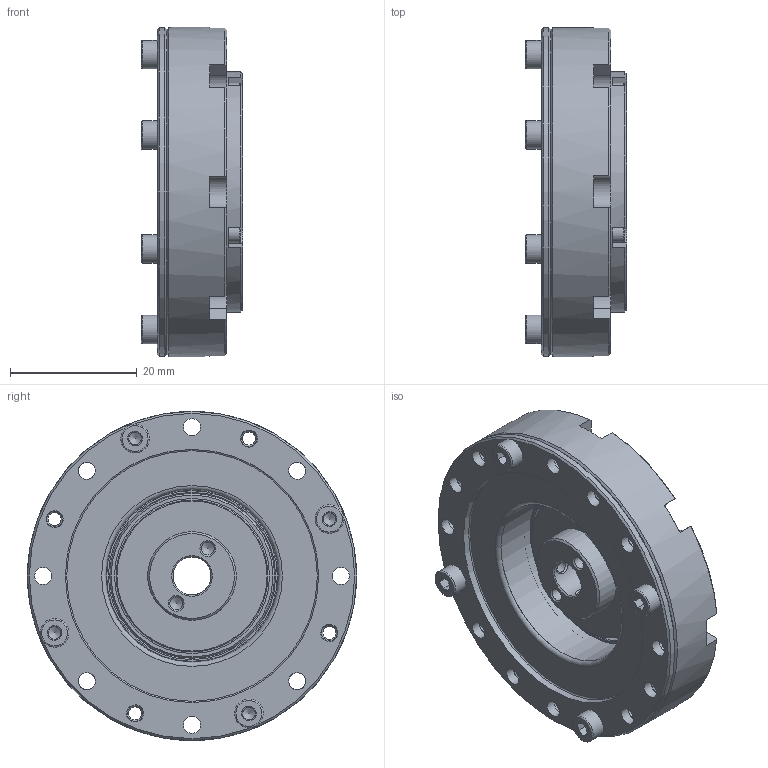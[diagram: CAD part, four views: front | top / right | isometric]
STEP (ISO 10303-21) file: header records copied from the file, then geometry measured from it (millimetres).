
FILE_DESCRIPTION(/* description */ (''),/* implementation_level */ '2;1');
FILE_NAME(/* name */ 'FHD-11-XX-U-I.stp',/* time_stamp */ '2024-09-04T16:01:35+08:00',/* author */ (''),/* organization */ (''),/* preprocessor_version */ 'ST-DEVELOPER v16.7',/* originating_system */ 'SIEMENS PLM Software NX 12.0',/* authorisation */ '');
FILE_SCHEMA (('AUTOMOTIVE_DESIGN { 1 0 10303 214 3 1 1 1 }'));
Length unit declared in the file: millimetre
Products named in the file (7): FHD-11柔轮; M2.5×6内六角圆柱头螺钉; M2×5内六角圆柱头螺钉; FHD-11刚轮; FHD-11发生器; FHD-11轴承; FHD-11-XX-U-I
Assembly tree (12 placements, depth 2):
  FHD-11-XX-U-I
    FHD-11轴承
    FHD-11发生器
    FHD-11刚轮
    M2×5内六角圆柱头螺钉  x4
    M2.5×6内六角圆柱头螺钉  x4
    FHD-11柔轮
Bounding box: 16 x 52 x 52 mm (x, y, z)
Volume: 17434.5 mm3; surface area: 20558.4 mm2
Topology: 13 solids, 13 shells, 507 faces, 1132 edges, 678 vertices
Faces by surface type: plane 185, cone 155, cylinder 125, torus 38, bspline 4
Full cylindrical faces by diameter (mm): 1.6 x16, 1.886 x4, 2.05 x12, 2.2 x12, 2.45 x4, 2.7 x24, 3 x4, 4.5 x4, 6 x1, 14 x1, 20.73 x2, 21.93 x2, 22.546 x2, 24 x1, 25.546 x2, 26.122 x2, 27.262 x2, 27.582 x1, 28.22 x1, 28.338 x1, 29.5 x1, 31 x2, 36.372 x1, 38 x1, 39.2 x2, 39.8 x3, 40 x1, 41.2 x1, 42.628 x1, 52 x2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
Entity records: 9132 total; most frequent: CARTESIAN_POINT 1782, DIRECTION 1570, ORIENTED_EDGE 1082, AXIS2_PLACEMENT_3D 719, EDGE_LOOP 682, FACE_BOUND 616, EDGE_CURVE 541, VERTEX_POINT 465
